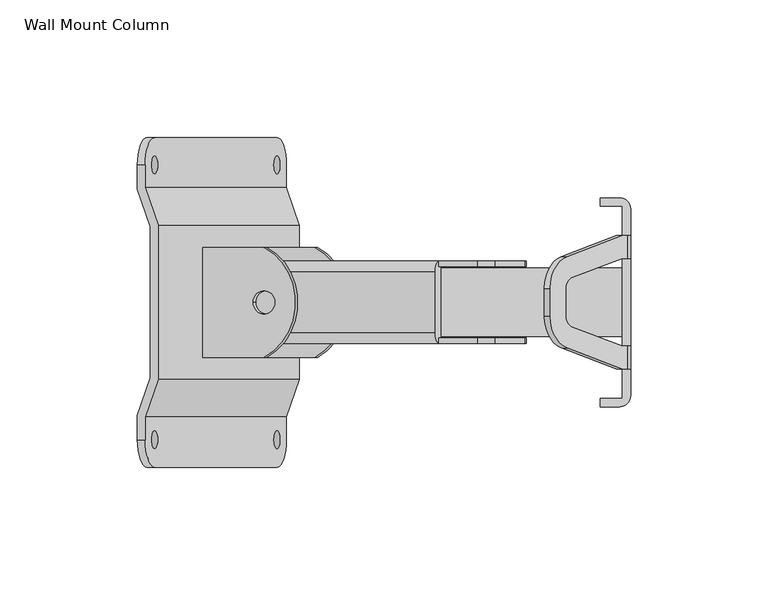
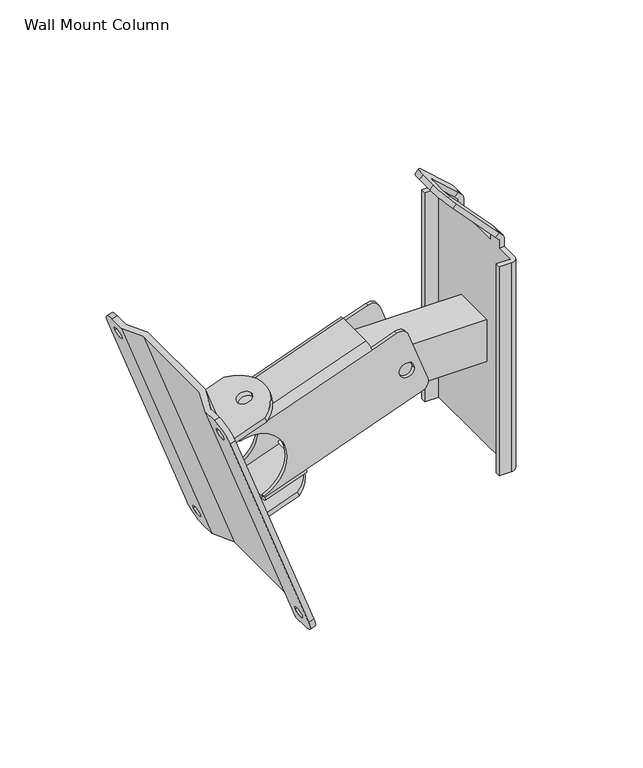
"""IFC4 building model written with IfcOpenShell, lengths in millimetres: proxy geometry, d&b xC-Series Wall Mount Column : Wall Mount Column."""

from ifc_helpers import new_model, si_unit, point, frame, frame_2d, origin, place, context, project, spatial, polyline, circle_curve, trimmed, segment, composite_curve, outline, extrude, source, transform, mapped, element, save
from ifc_brep_helpers import plane_surface, cylinder_surface, revolved_surface, advanced_brep


def wall_mount_column_5208b356(model_context):
    return source(origin(), model_context, "Body", "SolidModel", [
        advanced_brep(
        [(8.8044304, 13.0, -15.4185604), (11.7927928, 13.0, -9.0099966), (0.8481482, 13.0, 21.0601673), (-5.5604156, 13.0, 24.0485296), (-19.655805, 13.0, 18.9182275), (-18.9717647, 13.0, 17.0388422), (-88.2787958, 13.0, -8.1868541), (-80.8083887, 13.0, -46.9707814), (-79.7823283, 13.0, -49.7898593), (-56.2900128, 13.0, -41.2393557), (-56.9740531, 13.0, -39.3599705), (4.2194769, 13.0, 0.3691564), (-4.2194769, 13.0, -0.3691564), (-80.4663686, 15.0, -47.910474), (-80.8083887, 15.0, -46.9707814), (-94.4891945, 15.0, -9.3830766), (-94.8312146, 15.0, -8.443384), (-19.655805, 15.0, 18.9182275), (-5.5604156, 15.0, 24.0485296), (0.8481482, 15.0, 21.0601673), (11.7927928, 15.0, -9.0099966), (8.8044304, 15.0, -15.4185604), (-56.9740531, 15.0, -39.3599705), (4.2194769, 15.0, 0.3691564), (-4.2194769, 15.0, -0.3691564), (-94.4891945, 13.0, -9.3830766), (-80.8083887, -13.0, -46.9707814), (-88.2787958, -13.0, -8.1868541), (-18.9717647, -13.0, 17.0388422), (-19.655805, -13.0, 18.9182275), (-5.5604156, -13.0, 24.0485296), (0.8481482, -13.0, 21.0601673), (11.7927928, -13.0, -9.0099966), (8.8044304, -13.0, -15.4185604), (-56.9740531, -13.0, -39.3599705), (-56.2900128, -13.0, -41.2393557), (-79.7823283, -13.0, -49.7898593), (4.2194769, -13.0, 0.3691564), (-4.2194769, -13.0, -0.3691564), (8.8044304, -15.0, -15.4185604), (11.7927928, -15.0, -9.0099966), (0.8481482, -15.0, 21.0601673), (-5.5604156, -15.0, 24.0485296), (-19.655805, -15.0, 18.9182275), (-94.8312146, -15.0, -8.443384), (-94.4891945, -15.0, -9.3830766), (-80.8083887, -15.0, -46.9707814), (-80.4663686, -15.0, -47.910474), (-56.9740531, -15.0, -39.3599705), (4.2194769, -15.0, 0.3691564), (-4.2194769, -15.0, -0.3691564), (-94.4891945, -13.0, -9.3830766), (-79.098288, 11.0, -51.6692445), (-79.098288, -11.0, -51.6692445), (-96.1992952, 11.0, -4.6846135), (-94.1471743, 13.0, -10.3227692), (-94.1471743, -13.0, -10.3227692), (-96.1992952, -11.0, -4.6846135), (-21.0238855, 11.0, 22.676998), (-21.0238855, -11.0, 22.676998), (-55.6059725, -11.0, -43.1187409), (-55.6059725, 11.0, -43.1187409)],
        [
            (0, 1, circle_curve(frame((7.0943297, 13.0, -10.7200973), z_axis=(0.0, -1.0, 0.0), x_axis=(-0.9961946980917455, 0.0, -0.0871557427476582)), 5.0)),
            (1, 2),
            (2, 3, circle_curve(frame((-3.8503149, 13.0, 19.3500665), z_axis=(0.0, -1.0, 0.0), x_axis=(-0.9961946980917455, 0.0, -0.0871557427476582)), 5.0)),
            (3, 4),
            (4, 5),
            (5, 6),
            (6, 7, circle_curve(frame((-87.6487916, 13.0, -28.176929), z_axis=(0.0, 1.0, 0.0), x_axis=(-0.9961946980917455, 0.0, -0.0871557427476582)), 20.0)),
            (7, 8),
            (8, 9),
            (9, 10),
            (10, 0),
            (11, 12, circle_curve(frame((0.0, 13.0, 0.0), z_axis=(0.0, 1.0, 0.0), x_axis=(-0.9961946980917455, 0.0, -0.0871557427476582)), 4.2355947)),
            (12, 11, circle_curve(frame((0.0, 13.0, 0.0), z_axis=(0.0, 1.0, 0.0), x_axis=(-0.9961946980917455, 0.0, -0.0871557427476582)), 4.2355947)),
            (13, 14),
            (14, 15, circle_curve(frame((-87.6487916, 15.0, -28.176929), z_axis=(0.0, -1.0, 0.0), x_axis=(-0.9961946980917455, 0.0, -0.0871557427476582)), 20.0)),
            (15, 16),
            (16, 17),
            (17, 18),
            (18, 19, circle_curve(frame((-3.8503149, 15.0, 19.3500665), z_axis=(0.0, 1.0, 0.0), x_axis=(-0.9961946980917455, 0.0, -0.0871557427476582)), 5.0)),
            (19, 20),
            (20, 21, circle_curve(frame((7.0943297, 15.0, -10.7200973), z_axis=(0.0, 1.0, 0.0), x_axis=(-0.9961946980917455, 0.0, -0.0871557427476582)), 5.0)),
            (21, 22),
            (22, 13),
            (23, 24, circle_curve(frame((0.0, 15.0, 0.0), z_axis=(0.0, -1.0, 0.0), x_axis=(-0.9961946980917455, 0.0, -0.0871557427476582)), 4.2355947)),
            (24, 23, circle_curve(frame((0.0, 15.0, 0.0), z_axis=(0.0, -1.0, 0.0), x_axis=(-0.9961946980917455, 0.0, -0.0871557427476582)), 4.2355947)),
            (21, 0),
            (10, 22),
            (20, 1),
            (19, 2),
            (18, 3),
            (17, 4),
            (14, 7),
            (6, 25, circle_curve(frame((-87.6487916, 13.0, -28.176929), z_axis=(0.0, -1.0, 0.0), x_axis=(-0.9961946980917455, 0.0, -0.0871557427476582)), 20.0)),
            (25, 15),
            (26, 27, circle_curve(frame((-87.6487916, -13.0, -28.176929), z_axis=(0.0, -1.0, 0.0), x_axis=(-0.9961946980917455, 0.0, -0.08715574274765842)), 20.0)),
            (27, 28),
            (28, 29),
            (29, 30),
            (30, 31, circle_curve(frame((-3.8503149, -13.0, 19.3500665), z_axis=(0.0, 1.0, 0.0), x_axis=(-0.9961946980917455, 0.0, -0.08715574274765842)), 5.0)),
            (31, 32),
            (32, 33, circle_curve(frame((7.0943297, -13.0, -10.7200973), z_axis=(0.0, 1.0, 0.0), x_axis=(-0.9961946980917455, 0.0, -0.08715574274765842)), 5.0)),
            (33, 34),
            (34, 35),
            (35, 36),
            (36, 26),
            (37, 38, circle_curve(frame((0.0, -13.0, 0.0), z_axis=(0.0, -1.0, 0.0), x_axis=(-0.9961946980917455, 0.0, -0.08715574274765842)), 4.2355947)),
            (38, 37, circle_curve(frame((0.0, -13.0, 0.0), z_axis=(0.0, -1.0, 0.0), x_axis=(-0.9961946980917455, 0.0, -0.08715574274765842)), 4.2355947)),
            (39, 40, circle_curve(frame((7.0943297, -15.0, -10.7200973), z_axis=(0.0, -1.0, 0.0), x_axis=(-0.9961946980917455, 0.0, -0.08715574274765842)), 5.0)),
            (40, 41),
            (41, 42, circle_curve(frame((-3.8503149, -15.0, 19.3500665), z_axis=(0.0, -1.0, 0.0), x_axis=(-0.9961946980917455, 0.0, -0.08715574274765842)), 5.0)),
            (42, 43),
            (43, 44),
            (44, 45),
            (45, 46, circle_curve(frame((-87.6487916, -15.0, -28.176929), z_axis=(0.0, 1.0, 0.0), x_axis=(-0.9961946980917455, 0.0, -0.08715574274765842)), 20.0)),
            (46, 47),
            (47, 48),
            (48, 39),
            (49, 50, circle_curve(frame((0.0, -15.0, 0.0), z_axis=(0.0, 1.0, 0.0), x_axis=(-0.9961946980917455, 0.0, -0.08715574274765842)), 4.2355947)),
            (50, 49, circle_curve(frame((0.0, -15.0, 0.0), z_axis=(0.0, 1.0, 0.0), x_axis=(-0.9961946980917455, 0.0, -0.08715574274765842)), 4.2355947)),
            (33, 39),
            (48, 34),
            (32, 40),
            (31, 41),
            (30, 42),
            (29, 43),
            (45, 51),
            (51, 27, circle_curve(frame((-87.6487916, -13.0, -28.176929), z_axis=(0.0, 1.0, 0.0), x_axis=(-0.9961946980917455, 0.0, -0.08715574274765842)), 20.0)),
            (26, 46),
            (36, 8),
            (13, 52, circle_curve(frame((-80.4663686, 11.0, -47.910474), z_axis=(-0.9396926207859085, 0.0, -0.3420201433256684), x_axis=(0.0, -1.0, 0.0)), 4.0)),
            (52, 53),
            (53, 47, circle_curve(frame((-80.4663686, -11.0, -47.910474), z_axis=(-0.9396926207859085, 0.0, -0.3420201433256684), x_axis=(0.0, -1.0, 0.0)), 4.0)),
            (11, 23),
            (24, 12),
            (37, 49),
            (50, 38),
            (54, 16, circle_curve(frame((-94.8312146, 11.0, -8.443384), z_axis=(-0.9396926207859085, 0.0, -0.3420201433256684), x_axis=(0.0, -1.0, 0.0)), 4.0)),
            (25, 55),
            (55, 56),
            (56, 51),
            (44, 57, circle_curve(frame((-94.8312146, -11.0, -8.443384), z_axis=(-0.9396926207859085, 0.0, -0.3420201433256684), x_axis=(0.0, -1.0, 0.0)), 4.0)),
            (57, 54),
            (58, 59),
            (59, 43, circle_curve(frame((-19.655805, -11.0, 18.9182275), z_axis=(0.9396926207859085, 0.0, 0.3420201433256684), x_axis=(0.0, -1.0, 0.0)), 4.0)),
            (28, 5),
            (17, 58, circle_curve(frame((-19.655805, 11.0, 18.9182275), z_axis=(0.9396926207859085, 0.0, 0.3420201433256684), x_axis=(0.0, -1.0, 0.0)), 4.0)),
            (57, 59),
            (58, 54),
            (56, 27),
            (55, 6),
            (48, 60, circle_curve(frame((-56.9740531, -11.0, -39.3599705), z_axis=(0.9396926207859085, 0.0, 0.3420201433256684), x_axis=(0.0, -1.0, 0.0)), 4.0)),
            (60, 61),
            (61, 22, circle_curve(frame((-56.9740531, 11.0, -39.3599705), z_axis=(0.9396926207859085, 0.0, 0.3420201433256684), x_axis=(0.0, -1.0, 0.0)), 4.0)),
            (9, 35),
            (53, 60),
            (52, 61),
        ],
        [
            plane_surface(frame((8.8044304, 13.0, -15.4185604), z_axis=(0.0, -1.0000000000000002, 0.0), x_axis=(0.9396926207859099, 0.0, 0.3420201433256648))),
            plane_surface(frame((8.8044304, 15.0, -15.4185604), z_axis=(0.0, 1.0000000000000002, 0.0), x_axis=(-0.9396926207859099, 0.0, -0.3420201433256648))),
            plane_surface(frame((-80.4663686, 13.0, -47.910474), z_axis=(0.3420201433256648, 0.0, -0.9396926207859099), x_axis=(0.0, 1.0, 0.0))),
            cylinder_surface(frame((7.0943297, 15.0, -10.7200973), z_axis=(0.0, -1.0, 0.0), x_axis=(-0.9961946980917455, 0.0, -0.0871557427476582)), 5.0),
            plane_surface(frame((11.7927928, 13.0, -9.0099966), z_axis=(0.9396926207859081, 0.0, 0.34202014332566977), x_axis=(0.0, 1.0, 0.0))),
            cylinder_surface(frame((-3.8503149, 15.0, 19.3500665), z_axis=(0.0, -1.0, 0.0), x_axis=(-0.9961946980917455, 0.0, -0.0871557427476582)), 5.0),
            plane_surface(frame((-5.5604156, 13.0, 24.0485296), z_axis=(-0.34202014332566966, 0.0, 0.9396926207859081), x_axis=(0.0, 1.0, 0.0))),
            revolved_surface(polyline([(-107.5726855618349, 15.0, -29.920043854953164), (-107.5726855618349, 13.0, -29.920043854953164)]), (-87.6487916, 15.0, -28.176929), (0.0, 1.0, 0.0)),
            plane_surface(frame((-80.4663686, -13.0, -47.910474), z_axis=(0.0, 1.0, 0.0), x_axis=(-0.34202014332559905, 0.0, 0.9396926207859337))),
            plane_surface(frame((-80.4663686, -15.0, -47.910474), z_axis=(0.0, -1.0, 0.0), x_axis=(0.34202014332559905, 0.0, -0.9396926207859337))),
            plane_surface(frame((8.8044304, -13.0, -15.4185604), z_axis=(0.34202014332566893, 0.0, -0.9396926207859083), x_axis=(0.0, -1.0, 0.0))),
            cylinder_surface(frame((7.0943297, -15.0, -10.7200973), z_axis=(0.0, 1.0, 0.0), x_axis=(-0.9961946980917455, 0.0, -0.08715574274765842)), 5.0),
            plane_surface(frame((0.8481482, -13.0, 21.0601673), z_axis=(0.9396926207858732, 0.0, 0.3420201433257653), x_axis=(0.0, -1.0, 0.0))),
            cylinder_surface(frame((-3.8503149, -15.0, 19.3500665), z_axis=(0.0, 1.0, 0.0), x_axis=(-0.9961946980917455, 0.0, -0.08715574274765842)), 5.0),
            plane_surface(frame((-94.8312146, -13.0, -8.443384), z_axis=(-0.34202014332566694, 0.0, 0.9396926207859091), x_axis=(0.0, -1.0, 0.0))),
            revolved_surface(polyline([(-107.5726855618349, -15.0, -29.92004385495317), (-107.5726855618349, -13.0, -29.92004385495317)]), (-87.6487916, -15.0, -28.176929), (0.0, -1.0, 0.0)),
            plane_surface(frame((-80.4663686, -13.0, -47.910474), z_axis=(-0.9396926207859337, 0.0, -0.34202014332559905), x_axis=(0.0, -1.0, 0.0))),
            revolved_surface(polyline([(-4.219476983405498, 15.0, -0.3691564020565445), (-4.219476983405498, 13.0, -0.3691564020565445)]), (0.0, 0.0, 0.0), (0.0, 1.0, 0.0)),
            revolved_surface(polyline([(-4.219476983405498, -15.0, -0.36915640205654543), (-4.219476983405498, -13.0, -0.36915640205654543)]), (0.0, 0.0, 0.0), (0.0, -1.0, 0.0)),
            plane_surface(frame((-96.1992952, -11.0, -4.6846135), z_axis=(-0.9396926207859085, 0.0, -0.3420201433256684), x_axis=(0.0, 1.0, 0.0))),
            plane_surface(frame((-21.0238855, -11.0, 22.676998), z_axis=(0.9396926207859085, 0.0, 0.3420201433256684), x_axis=(0.0, -1.0, 0.0))),
            plane_surface(frame((-21.0238855, 11.0, 22.676998), z_axis=(-0.3420201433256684, 0.0, 0.9396926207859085), x_axis=(-0.9396926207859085, 0.0, -0.3420201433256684))),
            cylinder_surface(frame((-94.8312146, -11.0, -8.443384), z_axis=(0.9396926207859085, 0.0, 0.3420201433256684), x_axis=(0.0, -1.0, 0.0)), 4.0),
            plane_surface(frame((-19.655805, -13.0, 18.9182275), z_axis=(0.0, -1.0, 0.0), x_axis=(-0.9396926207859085, 0.0, -0.3420201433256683))),
            plane_surface(frame((-18.9717647, -13.0, 17.0388422), z_axis=(0.3420201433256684, 0.0, -0.9396926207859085), x_axis=(-0.9396926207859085, 0.0, -0.3420201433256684))),
            plane_surface(frame((-18.9717647, 13.0, 17.0388422), z_axis=(0.0, 1.0, 0.0), x_axis=(-0.9396926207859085, 0.0, -0.3420201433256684))),
            cylinder_surface(frame((-94.8312146, 11.0, -8.443384), z_axis=(0.9396926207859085, 0.0, 0.3420201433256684), x_axis=(0.0, -1.0, 0.0)), 4.0),
            plane_surface(frame((-56.9740531, -13.0, -39.3599705), z_axis=(0.9396926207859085, 0.0, 0.3420201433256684), x_axis=(-0.3420201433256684, 0.0, 0.9396926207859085))),
            cylinder_surface(frame((-80.4663686, -11.0, -47.910474), z_axis=(0.9396926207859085, 0.0, 0.3420201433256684), x_axis=(0.0, -1.0, 0.0)), 4.0),
            plane_surface(frame((-55.6059725, -11.0, -43.1187409), z_axis=(0.3420201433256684, 0.0, -0.9396926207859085), x_axis=(-0.9396926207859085, 0.0, -0.3420201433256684))),
            cylinder_surface(frame((-80.4663686, 11.0, -47.910474), z_axis=(0.9396926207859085, 0.0, 0.3420201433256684), x_axis=(0.0, -1.0, 0.0)), 4.0),
            plane_surface(frame((-56.2900128, 13.0, -41.2393557), z_axis=(-0.3420201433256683, 0.0, 0.9396926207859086), x_axis=(-0.9396926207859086, 0.0, -0.3420201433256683))),
        ],
        [
            (0, [[1, 2, 3, 4, 5, 6, 7, 8, 9, 10, 11], [12, 13]]),
            (1, [[14, 15, 16, 17, 18, 19, 20, 21, 22, 23], [24, 25]]),
            (2, [[26, -11, 27, -22]]),
            (3, [[-1, -26, -21, 28]]),
            (4, [[-2, -28, -20, 29]]),
            (5, [[-3, -29, -19, 30]]),
            (6, [[-30, -18, 31, -4]]),
            (7, [[-15, 32, -7, 33, 34]]),
            (8, [[35, 36, 37, 38, 39, 40, 41, 42, 43, 44, 45], [46, 47]]),
            (9, [[48, 49, 50, 51, 52, 53, 54, 55, 56, 57], [58, 59]]),
            (10, [[60, -57, 61, -42]]),
            (11, [[-41, 62, -48, -60]]),
            (12, [[-40, 63, -49, -62]]),
            (13, [[-39, 64, -50, -63]]),
            (14, [[-64, -38, 65, -51]]),
            (15, [[-54, 66, 67, -35, 68]]),
            (16, [[-45, 69, -8, -32, -14, 70, 71, 72, -55, -68]]),
            (17, [[-12, 73, -25, 74]]),
            (17, [[-13, -74, -24, -73]]),
            (18, [[-46, 75, -59, 76]]),
            (18, [[-47, -76, -58, -75]]),
            (19, [[77, -16, -34, 78, 79, 80, -66, -53, 81, 82]]),
            (20, [[83, 84, -65, -37, 85, -5, -31, 86]]),
            (21, [[-82, 87, -83, 88]]),
            (22, [[-81, -52, -84, -87]]),
            (23, [[-80, 89, -67]]),
            (24, [[-79, 90, -6, -85, -36, -89]]),
            (25, [[-78, -33, -90]]),
            (26, [[-77, -88, -86, -17]]),
            (27, [[-43, -61, 91, 92, 93, -27, -10, 94]]),
            (28, [[-91, -56, -72, 95]]),
            (29, [[-92, -95, -71, 96]]),
            (30, [[-93, -96, -70, -23]]),
            (31, [[-94, -9, -69, -44]]),
        ],
    ),
        extrude(outline(composite_curve([segment(polyline([(40.0, 0.0), (40.0, -24.0)]), True, "CONTINUOUS"), segment(trimmed(circle_curve(frame_2d((20.0, -13.5043359)), 22.5866989), [point((40.0, -24.0))], [point((0.0, -24.0))], False, "CARTESIAN"), True, "CONTINUOUS"), segment(polyline([(0.0, -24.0), (0.0, 0.0), (40.0, 0.0)]), True, "CONTINUOUS")], self_intersect=False), holes=[composite_curve([segment(trimmed(circle_curve(frame_2d((20.0, -24.0)), 4.2033528), [point((20.0, -28.2033528))], [point((20.0, -19.7966472))], True, "CARTESIAN"), True, "CONTINUOUS"), segment(trimmed(circle_curve(frame_2d((20.0, -24.0)), 4.2033528), [point((20.0, -19.7966472))], [point((20.0, -28.2033528))], True, "CARTESIAN"), True, "CONTINUOUS")], self_intersect=False)]), frame((-86.3584511, -20.0, -58.03635), z_axis=(-0.3420201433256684, 0.0, 0.9396926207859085), x_axis=(0.0, 1.0, 0.0)), (0.0, 0.0, 1.0), 3.0),
        advanced_brep(
        [(-124.5766138, -27.5, 38.1957758), (-129.2750769, -41.2373871, 36.4856751), (-129.2750769, -50.0, 36.4856751), (-126.4559991, -50.0, 37.5117355), (-126.4559991, -41.766368, 37.5117355), (-121.757536, -28.0289809, 39.2218363), (-121.757536, 28.0289809, 39.2218363), (-126.4559991, 41.766368, 37.5117355), (-126.4559991, 50.0, 37.5117355), (-129.2750769, 50.0, 36.4856751), (-129.2750769, 41.2373871, 36.4856751), (-124.5766138, 27.5, 38.1957758), (-73.2735923, -27.5, -102.7581173), (-73.2735923, 27.5, -102.7581173), (-77.9720554, 41.2373871, -104.468218), (-77.9720554, 50.0, -104.468218), (-75.1529776, 50.0, -103.4421576), (-75.1529776, 41.766368, -103.4421576), (-70.4545145, 28.0289809, -101.7320569), (-70.4545145, -28.0289809, -101.7320569), (-75.1529776, -41.766368, -103.4421576), (-75.1529776, -50.0, -103.4421576), (-77.9720554, -50.0, -104.468218), (-77.9720554, -41.2373871, -104.468218), (-81.3922569, -60.0, -95.0712918), (-125.8548755, -60.0, 27.0887489), (-125.8548755, -46.75, 27.0887489), (-125.8548755, -53.25, 27.0887489), (-81.3922569, -46.75, -95.0712918), (-81.3922569, -53.25, -95.0712918), (-78.573179, -60.0, -94.0452314), (-123.0357976, -60.0, 28.1148093), (-123.0357976, -53.25, 28.1148093), (-123.0357976, -46.75, 28.1148093), (-78.573179, -53.25, -94.0452314), (-78.573179, -46.75, -94.0452314), (-78.573179, 60.0, -94.0452314), (-123.0357976, 60.0, 28.1148093), (-123.0357976, 46.75, 28.1148093), (-123.0357976, 53.25, 28.1148093), (-78.573179, 46.75, -94.0452314), (-78.573179, 53.25, -94.0452314), (-81.3922569, 60.0, -95.0712918), (-125.8548755, 60.0, 27.0887489), (-125.8548755, 53.25, 27.0887489), (-125.8548755, 46.75, 27.0887489), (-81.3922569, 53.25, -95.0712918), (-81.3922569, 46.75, -95.0712918)],
        [
            (0, 1),
            (1, 2),
            (2, 3),
            (3, 4),
            (4, 5),
            (5, 6),
            (6, 7),
            (7, 8),
            (8, 9),
            (9, 10),
            (10, 11),
            (11, 0),
            (12, 13),
            (13, 14),
            (14, 15),
            (15, 16),
            (16, 17),
            (17, 18),
            (18, 19),
            (19, 20),
            (20, 21),
            (21, 22),
            (22, 23),
            (23, 12),
            (0, 12),
            (23, 1),
            (22, 24, circle_curve(frame((-81.3922569, -50.0, -95.0712918), z_axis=(-0.9396926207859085, 0.0, -0.34202014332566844), x_axis=(0.0, 1.0, 0.0)), 10.0)),
            (24, 25),
            (25, 2, circle_curve(frame((-125.8548755, -50.0, 27.0887489), z_axis=(-0.9396926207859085, 0.0, -0.34202014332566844), x_axis=(0.0, 1.0, 0.0)), 10.0)),
            (26, 27, circle_curve(frame((-125.8548755, -50.0, 27.0887489), z_axis=(0.9396926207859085, 0.0, 0.34202014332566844), x_axis=(0.0, 1.0, 0.0)), 3.25)),
            (27, 26, circle_curve(frame((-125.8548755, -50.0, 27.0887489), z_axis=(0.9396926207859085, 0.0, 0.34202014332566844), x_axis=(0.0, 1.0, 0.0)), 3.25)),
            (28, 29, circle_curve(frame((-81.3922569, -50.0, -95.0712918), z_axis=(0.9396926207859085, 0.0, 0.34202014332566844), x_axis=(0.0, 1.0, 0.0)), 3.25)),
            (29, 28, circle_curve(frame((-81.3922569, -50.0, -95.0712918), z_axis=(0.9396926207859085, 0.0, 0.34202014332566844), x_axis=(0.0, 1.0, 0.0)), 3.25)),
            (24, 30),
            (30, 31),
            (31, 25),
            (20, 4),
            (3, 31, circle_curve(frame((-123.0357976, -50.0, 28.1148093), z_axis=(0.9396926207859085, 0.0, 0.34202014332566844), x_axis=(0.0, 1.0, 0.0)), 10.0)),
            (30, 21, circle_curve(frame((-78.573179, -50.0, -94.0452314), z_axis=(0.9396926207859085, 0.0, 0.34202014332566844), x_axis=(0.0, 1.0, 0.0)), 10.0)),
            (32, 33, circle_curve(frame((-123.0357976, -50.0, 28.1148093), z_axis=(-0.9396926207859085, 0.0, -0.34202014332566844), x_axis=(0.0, 1.0, 0.0)), 3.25)),
            (33, 32, circle_curve(frame((-123.0357976, -50.0, 28.1148093), z_axis=(-0.9396926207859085, 0.0, -0.34202014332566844), x_axis=(0.0, 1.0, 0.0)), 3.25)),
            (34, 35, circle_curve(frame((-78.573179, -50.0, -94.0452314), z_axis=(-0.9396926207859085, 0.0, -0.34202014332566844), x_axis=(0.0, 1.0, 0.0)), 3.25)),
            (35, 34, circle_curve(frame((-78.573179, -50.0, -94.0452314), z_axis=(-0.9396926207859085, 0.0, -0.34202014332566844), x_axis=(0.0, 1.0, 0.0)), 3.25)),
            (19, 5),
            (18, 6),
            (17, 7),
            (16, 36, circle_curve(frame((-78.573179, 50.0, -94.0452314), z_axis=(0.9396926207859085, 0.0, 0.34202014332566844), x_axis=(0.0, 1.0, 0.0)), 10.0)),
            (36, 37),
            (37, 8, circle_curve(frame((-123.0357976, 50.0, 28.1148093), z_axis=(0.9396926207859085, 0.0, 0.34202014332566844), x_axis=(0.0, 1.0, 0.0)), 10.0)),
            (38, 39, circle_curve(frame((-123.0357976, 50.0, 28.1148093), z_axis=(-0.9396926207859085, 0.0, -0.34202014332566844), x_axis=(0.0, 1.0, 0.0)), 3.25)),
            (39, 38, circle_curve(frame((-123.0357976, 50.0, 28.1148093), z_axis=(-0.9396926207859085, 0.0, -0.34202014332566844), x_axis=(0.0, 1.0, 0.0)), 3.25)),
            (40, 41, circle_curve(frame((-78.573179, 50.0, -94.0452314), z_axis=(-0.9396926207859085, 0.0, -0.34202014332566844), x_axis=(0.0, 1.0, 0.0)), 3.25)),
            (41, 40, circle_curve(frame((-78.573179, 50.0, -94.0452314), z_axis=(-0.9396926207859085, 0.0, -0.34202014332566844), x_axis=(0.0, 1.0, 0.0)), 3.25)),
            (36, 42),
            (42, 43),
            (43, 37),
            (14, 10),
            (9, 43, circle_curve(frame((-125.8548755, 50.0, 27.0887489), z_axis=(-0.9396926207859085, 0.0, -0.34202014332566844), x_axis=(0.0, 1.0, 0.0)), 10.0)),
            (42, 15, circle_curve(frame((-81.3922569, 50.0, -95.0712918), z_axis=(-0.9396926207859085, 0.0, -0.34202014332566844), x_axis=(0.0, 1.0, 0.0)), 10.0)),
            (44, 45, circle_curve(frame((-125.8548755, 50.0, 27.0887489), z_axis=(0.9396926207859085, 0.0, 0.34202014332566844), x_axis=(0.0, 1.0, 0.0)), 3.25)),
            (45, 44, circle_curve(frame((-125.8548755, 50.0, 27.0887489), z_axis=(0.9396926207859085, 0.0, 0.34202014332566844), x_axis=(0.0, 1.0, 0.0)), 3.25)),
            (46, 47, circle_curve(frame((-81.3922569, 50.0, -95.0712918), z_axis=(0.9396926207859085, 0.0, 0.34202014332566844), x_axis=(0.0, 1.0, 0.0)), 3.25)),
            (47, 46, circle_curve(frame((-81.3922569, 50.0, -95.0712918), z_axis=(0.9396926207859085, 0.0, 0.34202014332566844), x_axis=(0.0, 1.0, 0.0)), 3.25)),
            (13, 11),
            (32, 27),
            (26, 33),
            (38, 45),
            (44, 39),
            (34, 29),
            (28, 35),
            (40, 47),
            (46, 41),
        ],
        [
            plane_surface(frame((-124.5766138, -27.5, 38.1957758), z_axis=(-0.3420201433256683, 0.0, 0.9396926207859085), x_axis=(-0.32139380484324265, -0.9396926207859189, -0.116977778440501))),
            plane_surface(frame((-73.2735923, -27.5, -102.7581173), z_axis=(0.3420201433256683, 0.0, -0.9396926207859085), x_axis=(0.32139380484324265, 0.9396926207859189, 0.116977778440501))),
            plane_surface(frame((-124.5766138, -27.5, 38.1957758), z_axis=(-0.8830222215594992, 0.34202014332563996, -0.321393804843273), x_axis=(0.34202014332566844, 0.0, -0.9396926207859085))),
            plane_surface(frame((-129.2750769, -41.2373871, 36.4856751), z_axis=(-0.9396926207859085, 0.0, -0.3420201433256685), x_axis=(0.3420201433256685, 0.0, -0.9396926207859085))),
            plane_surface(frame((-129.2750769, -60.0, 36.4856751), z_axis=(0.0, -1.0, 0.0), x_axis=(0.3420201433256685, 0.0, -0.9396926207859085))),
            plane_surface(frame((-126.4559991, -60.0, 37.5117355), z_axis=(0.9396926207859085, 0.0, 0.34202014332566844), x_axis=(0.34202014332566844, 0.0, -0.9396926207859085))),
            plane_surface(frame((-126.4559991, -41.766368, 37.5117355), z_axis=(0.8830222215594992, -0.3420201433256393, 0.321393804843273), x_axis=(0.3420201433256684, 0.0, -0.9396926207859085))),
            plane_surface(frame((-121.757536, -28.0289809, 39.2218363), z_axis=(0.9396926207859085, 0.0, 0.34202014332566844), x_axis=(0.34202014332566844, 0.0, -0.9396926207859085))),
            plane_surface(frame((-121.757536, 28.0289809, 39.2218363), z_axis=(0.8830222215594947, 0.34202014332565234, 0.3213938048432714), x_axis=(0.34202014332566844, 0.0, -0.9396926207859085))),
            plane_surface(frame((-126.4559991, 41.766368, 37.5117355), z_axis=(0.9396926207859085, 0.0, 0.34202014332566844), x_axis=(0.34202014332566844, 0.0, -0.9396926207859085))),
            plane_surface(frame((-126.4559991, 60.0, 37.5117355), z_axis=(0.0, 1.0, 0.0), x_axis=(0.34202014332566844, 0.0, -0.9396926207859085))),
            plane_surface(frame((-129.2750769, 60.0, 36.4856751), z_axis=(-0.9396926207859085, 0.0, -0.3420201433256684), x_axis=(0.3420201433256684, 0.0, -0.9396926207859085))),
            plane_surface(frame((-129.2750769, 41.2373871, 36.4856751), z_axis=(-0.8830222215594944, -0.3420201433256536, -0.32139380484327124), x_axis=(0.3420201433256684, 0.0, -0.9396926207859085))),
            plane_surface(frame((-124.5766138, 27.5, 38.1957758), z_axis=(-0.9396926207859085, 0.0, -0.34202014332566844), x_axis=(0.34202014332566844, 0.0, -0.9396926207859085))),
            cylinder_surface(frame((-108.9404083, -50.0, 33.2451115), z_axis=(0.9396926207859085, 0.0, 0.34202014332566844), x_axis=(0.0, 1.0, 0.0)), 10.0),
            cylinder_surface(frame((-123.0357976, 50.0, 28.1148093), z_axis=(0.9396926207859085, 0.0, 0.34202014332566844), x_axis=(0.0, 1.0, 0.0)), 10.0),
            cylinder_surface(frame((-78.573179, -50.0, -94.0452314), z_axis=(0.9396926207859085, 0.0, 0.34202014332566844), x_axis=(0.0, 1.0, 0.0)), 10.0),
            cylinder_surface(frame((-78.573179, 50.0, -94.0452314), z_axis=(0.9396926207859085, 0.0, 0.34202014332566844), x_axis=(0.0, 1.0, 0.0)), 10.0),
            revolved_surface(polyline([(-125.85487548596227, -46.75, 27.088748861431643), (-123.0357976, -46.75, 28.1148093)]), (-123.0357976, -50.0, 28.1148093), (-0.9396926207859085, 0.0, -0.34202014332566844)),
            revolved_surface(polyline([(-125.85487548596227, 53.25, 27.088748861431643), (-123.0357976, 53.25, 28.1148093)]), (-123.0357976, 50.0, 28.1148093), (-0.9396926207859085, 0.0, -0.34202014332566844)),
            revolved_surface(polyline([(-81.39225688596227, -46.75, -95.07129183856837), (-78.573179, -46.75, -94.0452314)]), (-78.573179, -50.0, -94.0452314), (-0.9396926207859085, 0.0, -0.34202014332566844)),
            revolved_surface(polyline([(-81.39225688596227, 53.25, -95.07129183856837), (-78.573179, 53.25, -94.0452314)]), (-78.573179, 50.0, -94.0452314), (-0.9396926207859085, 0.0, -0.34202014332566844)),
        ],
        [
            (0, [[1, 2, 3, 4, 5, 6, 7, 8, 9, 10, 11, 12]]),
            (1, [[13, 14, 15, 16, 17, 18, 19, 20, 21, 22, 23, 24]]),
            (2, [[-1, 25, -24, 26]]),
            (3, [[-26, -23, 27, 28, 29, -2], [30, 31], [32, 33]]),
            (4, [[-28, 34, 35, 36]]),
            (5, [[37, -4, 38, -35, 39, -21], [40, 41], [42, 43]]),
            (6, [[-5, -37, -20, 44]]),
            (7, [[-6, -44, -19, 45]]),
            (8, [[-7, -45, -18, 46]]),
            (9, [[-46, -17, 47, 48, 49, -8], [50, 51], [52, 53]]),
            (10, [[-48, 54, 55, 56]]),
            (11, [[57, -10, 58, -55, 59, -15], [60, 61], [62, 63]]),
            (12, [[-11, -57, -14, 64]]),
            (13, [[-12, -64, -13, -25]]),
            (14, [[-3, -29, -36, -38]]),
            (15, [[-9, -49, -56, -58]]),
            (16, [[-22, -39, -34, -27]]),
            (17, [[-16, -59, -54, -47]]),
            (18, [[65, -30, 66, -40]]),
            (18, [[-65, -41, -66, -31]]),
            (19, [[67, -60, 68, -50]]),
            (19, [[-67, -51, -68, -61]]),
            (20, [[69, -32, 70, -42]]),
            (20, [[-69, -43, -70, -33]]),
            (21, [[71, -62, 72, -52]]),
            (21, [[-71, -53, -72, -63]]),
        ],
    ),
        extrude(outline(composite_curve([segment(polyline([(40.0, 0.0), (40.0, -24.0)]), True, "CONTINUOUS"), segment(trimmed(circle_curve(frame_2d((20.0, -13.5043359)), 22.5866989), [point((40.0, -24.0))], [point((0.0, -24.0))], False, "CARTESIAN"), True, "CONTINUOUS"), segment(polyline([(0.0, -24.0), (0.0, 0.0), (40.0, 0.0)]), True, "CONTINUOUS")], self_intersect=False), holes=[composite_curve([segment(trimmed(circle_curve(frame_2d((20.0, -24.0)), 4.2033528), [point((20.0, -28.2033528))], [point((20.0, -19.7966472))], True, "CARTESIAN"), True, "CONTINUOUS"), segment(trimmed(circle_curve(frame_2d((20.0, -24.0)), 4.2033528), [point((20.0, -19.7966472))], [point((20.0, -28.2033528))], True, "CARTESIAN"), True, "CONTINUOUS")], self_intersect=False)]), frame((-104.8275389, -20.0, -7.2929485), z_axis=(-0.3420201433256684, 0.0, 0.9396926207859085), x_axis=(0.0, 1.0, 0.0)), (0.0, 0.0, 1.0), 3.0),
        advanced_brep(
        [(44.8686292, -24.1923439, 69.3813708), (25.0048577, -16.6652184, 89.2451423), (18.7157288, -5.0741084, 95.5342712), (18.7157288, 5.0741084, 95.5342712), (25.0048577, 16.6652184, 89.2451423), (44.8686292, 24.1923439, 69.3813708), (47.0, 24.1923439, 67.25), (47.0, 15.9101345, 67.25), (44.8686292, 15.9101345, 69.3813708), (26.4689593, 8.9378118, 87.7810407), (24.372583, 5.0741084, 89.877417), (24.372583, -5.0741084, 89.877417), (26.4689593, -8.9378118, 87.7810407), (44.8686292, -15.9101345, 69.3813708), (47.0, -15.9101345, 67.25), (47.0, -24.1923439, 67.25), (46.9899495, -15.9101345, 71.5026912), (28.5902797, -8.9378118, 89.902361), (26.4939033, -5.0741084, 91.9987373), (26.4939033, 5.0741084, 91.9987373), (28.5902797, 8.9378118, 89.902361), (46.9899495, 15.9101345, 71.5026912), (48.8284271, 15.9101345, 69.6642136), (48.8284271, 24.1923439, 69.6642136), (46.9899495, 24.1923439, 71.5026912), (27.126178, 16.6652184, 91.3664626), (20.8370491, 5.0741084, 97.6555916), (20.8370491, -5.0741084, 97.6555916), (27.126178, -16.6652184, 91.3664626), (46.9899495, -24.1923439, 71.5026912), (48.8284271, -24.1923439, 69.6642136), (48.8284271, -15.9101345, 69.6642136), (50.0, 15.9101345, 66.8357864), (47.0, 15.9101345, 62.25), (50.0, 15.9101345, 62.25), (50.0, 24.1923439, 66.8357864), (50.0, 24.1923439, 62.25), (47.0, 24.1923439, 62.25), (50.0, -15.9101345, 62.25), (50.0, -15.9101345, 66.8357864), (50.0, -24.1923439, 66.8357864), (50.0, -24.1923439, 62.25), (50.0, -34.0, 62.25), (50.0, -34.0, -62.75), (50.0, 34.0, -62.75), (50.0, 34.0, 62.25), (47.0, 35.0, 62.25), (47.0, 35.0, -62.75), (47.0, -35.0, -62.75), (47.0, -35.0, 62.25), (47.0, -24.1923439, 62.25), (47.0, -15.9101345, 62.25), (39.0, 38.0, 62.25), (39.0, 35.0, 62.25), (46.0, 38.0, 62.25), (39.0, -35.0, 62.25), (39.0, -38.0, 62.25), (46.0, -38.0, 62.25), (39.0, 38.0, -62.75), (46.0, 38.0, -62.75), (46.0, -38.0, -62.75), (39.0, -38.0, -62.75), (39.0, -35.0, -62.75), (39.0, 35.0, -62.75)],
        [
            (0, 1),
            (1, 2, circle_curve(frame((27.2010101, -5.0741084, 87.0489899), z_axis=(-0.7071067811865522, 0.0, -0.707106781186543), x_axis=(-0.707106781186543, 0.0, 0.7071067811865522)), 12.0)),
            (2, 3),
            (3, 4, circle_curve(frame((27.2010101, 5.0741084, 87.0489899), z_axis=(-0.7071067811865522, 0.0, -0.707106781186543), x_axis=(-0.707106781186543, 0.0, 0.7071067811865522)), 12.0)),
            (4, 5),
            (5, 6),
            (6, 7),
            (7, 8),
            (8, 9),
            (9, 10, circle_curve(frame((27.2010101, 5.0741084, 87.0489899), z_axis=(0.7071067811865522, 0.0, 0.707106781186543), x_axis=(-0.707106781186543, 0.0, 0.7071067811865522)), 4.0)),
            (10, 11),
            (11, 12, circle_curve(frame((27.2010101, -5.0741084, 87.0489899), z_axis=(0.7071067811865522, 0.0, 0.707106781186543), x_axis=(-0.707106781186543, 0.0, 0.7071067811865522)), 4.0)),
            (12, 13),
            (13, 14),
            (14, 15),
            (15, 0),
            (16, 17),
            (17, 18, circle_curve(frame((29.3223305, -5.0741084, 89.1703102), z_axis=(-0.7071067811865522, 0.0, -0.707106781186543), x_axis=(-0.707106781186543, 0.0, 0.7071067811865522)), 4.0)),
            (18, 19),
            (19, 20, circle_curve(frame((29.3223305, 5.0741084, 89.1703102), z_axis=(-0.7071067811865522, 0.0, -0.707106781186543), x_axis=(-0.707106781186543, 0.0, 0.7071067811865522)), 4.0)),
            (20, 21),
            (21, 22),
            (22, 23),
            (23, 24),
            (24, 25),
            (25, 26, circle_curve(frame((29.3223305, 5.0741084, 89.1703102), z_axis=(0.7071067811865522, 0.0, 0.707106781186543), x_axis=(-0.707106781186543, 0.0, 0.7071067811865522)), 12.0)),
            (26, 27),
            (27, 28, circle_curve(frame((29.3223305, -5.0741084, 89.1703102), z_axis=(0.7071067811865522, 0.0, 0.707106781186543), x_axis=(-0.707106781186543, 0.0, 0.7071067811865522)), 12.0)),
            (28, 29),
            (29, 30),
            (30, 31),
            (31, 16),
            (12, 17),
            (16, 13),
            (11, 18),
            (10, 19),
            (9, 20),
            (8, 21),
            (4, 25),
            (24, 5),
            (3, 26),
            (2, 27),
            (1, 28),
            (0, 29),
            (32, 22, circle_curve(frame((46.0, 15.9101345, 66.8357864), z_axis=(0.0, -1.0, 0.0), x_axis=(1.0, 0.0, 0.0)), 4.0)),
            (7, 33),
            (33, 34),
            (34, 32),
            (35, 36),
            (36, 37),
            (37, 6),
            (23, 35, circle_curve(frame((46.0, 24.1923439, 66.8357864), z_axis=(0.0, 1.0, 0.0), x_axis=(1.0, 0.0, 0.0)), 4.0)),
            (34, 38),
            (38, 39),
            (39, 40),
            (40, 41),
            (41, 42),
            (42, 43),
            (43, 44),
            (44, 45),
            (45, 36),
            (35, 32),
            (37, 46),
            (46, 47),
            (47, 48),
            (48, 49),
            (49, 50),
            (50, 15),
            (14, 51),
            (51, 33),
            (40, 30, circle_curve(frame((46.0, -24.1923439, 66.8357864), z_axis=(0.0, -1.0, 0.0), x_axis=(1.0, 0.0, 0.0)), 4.0)),
            (50, 41),
            (38, 51),
            (31, 39, circle_curve(frame((46.0, -15.9101345, 66.8357864), z_axis=(0.0, 1.0, 0.0), x_axis=(1.0, 0.0, 0.0)), 4.0)),
            (52, 53),
            (53, 46),
            (45, 54, circle_curve(frame((46.0, 34.0, 62.25), z_axis=(0.0, 0.0, 1.0), x_axis=(1.0, 0.0, 0.0)), 4.0)),
            (54, 52),
            (49, 55),
            (55, 56),
            (56, 57),
            (57, 42, circle_curve(frame((46.0, -34.0, 62.25), z_axis=(0.0, 0.0, 1.0), x_axis=(1.0, 0.0, 0.0)), 4.0)),
            (58, 59),
            (59, 44, circle_curve(frame((46.0, 34.0, -62.75), z_axis=(0.0, 0.0, -1.0), x_axis=(1.0, 0.0, 0.0)), 4.0)),
            (43, 60, circle_curve(frame((46.0, -34.0, -62.75), z_axis=(0.0, 0.0, -1.0), x_axis=(1.0, 0.0, 0.0)), 4.0)),
            (60, 61),
            (61, 62),
            (62, 48),
            (47, 63),
            (63, 58),
            (52, 58),
            (63, 53),
            (62, 55),
            (61, 56),
            (60, 57),
            (59, 54),
        ],
        [
            plane_surface(frame((44.8686292, -25.0, 69.3813708), z_axis=(-0.7071067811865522, 0.0, -0.707106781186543), x_axis=(0.0, -1.0, 0.0))),
            plane_surface(frame((46.9899495, -25.0, 71.5026912), z_axis=(0.7071067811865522, 0.0, 0.707106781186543), x_axis=(0.0, 1.0, 0.0))),
            plane_surface(frame((46.9899495, -15.9101345, 71.5026912), z_axis=(0.18301270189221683, 0.9659258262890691, -0.183012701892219), x_axis=(-0.7071067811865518, 0.0, -0.7071067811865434))),
            revolved_surface(polyline([(24.372582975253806, -5.0741084, 89.8774170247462), (26.493903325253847, -5.0741084, 91.9987373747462)]), (27.2010101, -5.0741084, 87.0489899), (-0.7071067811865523, 0.0, -0.7071067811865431)),
            plane_surface(frame((26.4939033, -5.0741084, 91.9987373), z_axis=(0.7071067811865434, 0.0, -0.7071067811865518), x_axis=(-0.7071067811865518, 0.0, -0.7071067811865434))),
            revolved_surface(polyline([(24.372582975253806, 5.0741084, 89.8774170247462), (26.493903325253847, 5.0741084, 91.9987373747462)]), (27.2010101, 5.0741084, 87.0489899), (-0.7071067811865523, 0.0, -0.7071067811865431)),
            plane_surface(frame((28.5902797, 8.9378118, 89.902361), z_axis=(0.18301270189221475, -0.9659258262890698, -0.1830127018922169), x_axis=(-0.7071067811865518, 0.0, -0.7071067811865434))),
            plane_surface(frame((46.9899495, 24.1923439, 71.5026912), z_axis=(-0.18301270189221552, 0.9659258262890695, 0.18301270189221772), x_axis=(-0.7071067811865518, 0.0, -0.7071067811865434))),
            cylinder_surface(frame((27.2010101, 5.0741084, 87.0489899), z_axis=(0.7071067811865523, 0.0, 0.7071067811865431), x_axis=(-0.707106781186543, 0.0, 0.7071067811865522)), 12.0),
            plane_surface(frame((20.8370491, 5.0741084, 97.6555916), z_axis=(-0.7071067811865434, 0.0, 0.7071067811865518), x_axis=(-0.7071067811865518, 0.0, -0.7071067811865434))),
            cylinder_surface(frame((27.2010101, -5.0741084, 87.0489899), z_axis=(0.7071067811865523, 0.0, 0.7071067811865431), x_axis=(-0.707106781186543, 0.0, 0.7071067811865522)), 12.0),
            plane_surface(frame((27.126178, -16.6652184, 91.3664626), z_axis=(-0.1830127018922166, -0.9659258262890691, 0.1830127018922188), x_axis=(-0.7071067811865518, 0.0, -0.7071067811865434))),
            plane_surface(frame((50.0, 15.9101345, 66.8357864), z_axis=(0.0, -1.0, 0.0), x_axis=(0.0, 0.0, 1.0))),
            plane_surface(frame((50.0, 24.1923439, 66.8357864), z_axis=(0.0, 1.0, 0.0), x_axis=(0.0, 0.0, -1.0))),
            plane_surface(frame((50.0, 15.9101345, 62.25), z_axis=(1.0, 0.0, 0.0), x_axis=(0.0, 1.0, 0.0))),
            plane_surface(frame((47.0, 15.9101345, 67.25), z_axis=(-1.0, 0.0, 0.0), x_axis=(0.0, 1.0, 0.0))),
            cylinder_surface(frame((46.0, 24.1923439, 66.8357864), z_axis=(0.0, -1.0, 0.0), x_axis=(1.0, 0.0, 0.0)), 4.0),
            plane_surface(frame((50.0, -24.1923439, 66.8357864), z_axis=(0.0, -1.0, 0.0), x_axis=(0.0, 0.0, 1.0))),
            plane_surface(frame((50.0, -15.9101345, 66.8357864), z_axis=(0.0, 1.0, 0.0), x_axis=(0.0, 0.0, -1.0))),
            cylinder_surface(frame((46.0, -15.9101345, 66.8357864), z_axis=(0.0, -1.0, 0.0), x_axis=(1.0, 0.0, 0.0)), 4.0),
            plane_surface(frame((39.0, 38.0, 62.25), z_axis=(0.0, 0.0, 1.0), x_axis=(0.0, -1.0, 0.0))),
            plane_surface(frame((39.0, 38.0, -62.75), z_axis=(0.0, 0.0, -1.0), x_axis=(0.0, 1.0, 0.0))),
            plane_surface(frame((39.0, 38.0, 62.25), z_axis=(-1.0, 0.0, 0.0), x_axis=(0.0, 0.0, -1.0))),
            plane_surface(frame((39.0, 35.0, 62.25), z_axis=(0.0, -1.0, 0.0), x_axis=(0.0, 0.0, -1.0))),
            plane_surface(frame((47.0, -35.0, 62.25), z_axis=(0.0, 1.0, 0.0), x_axis=(0.0, 0.0, -1.0))),
            plane_surface(frame((39.0, -35.0, 62.25), z_axis=(-1.0, 0.0, 0.0), x_axis=(0.0, 0.0, -1.0))),
            plane_surface(frame((39.0, -38.0, 62.25), z_axis=(0.0, -1.0, 0.0), x_axis=(0.0, 0.0, -1.0))),
            cylinder_surface(frame((46.0, -34.0, -62.75), z_axis=(0.0, 0.0, 1.0), x_axis=(1.0, 0.0, 0.0)), 4.0),
            cylinder_surface(frame((46.0, 34.0, -62.75), z_axis=(0.0, 0.0, 1.0), x_axis=(1.0, 0.0, 0.0)), 4.0),
            plane_surface(frame((46.0, 38.0, 62.25), z_axis=(0.0, 1.0, 0.0), x_axis=(0.0, 0.0, -1.0))),
        ],
        [
            (0, [[1, 2, 3, 4, 5, 6, 7, 8, 9, 10, 11, 12, 13, 14, 15, 16]]),
            (1, [[17, 18, 19, 20, 21, 22, 23, 24, 25, 26, 27, 28, 29, 30, 31, 32]]),
            (2, [[-13, 33, -17, 34]]),
            (3, [[-12, 35, -18, -33]]),
            (4, [[-11, 36, -19, -35]]),
            (5, [[-10, 37, -20, -36]]),
            (6, [[-9, 38, -21, -37]]),
            (7, [[-5, 39, -25, 40]]),
            (8, [[-4, 41, -26, -39]]),
            (9, [[-3, 42, -27, -41]]),
            (10, [[-2, 43, -28, -42]]),
            (11, [[-1, 44, -29, -43]]),
            (12, [[45, -22, -38, -8, 46, 47, 48]]),
            (13, [[49, 50, 51, -6, -40, -24, 52]]),
            (14, [[-48, 53, 54, 55, 56, 57, 58, 59, 60, 61, -49, 62]]),
            (15, [[-46, -7, -51, 63, 64, 65, 66, 67, 68, -15, 69, 70]]),
            (16, [[-45, -62, -52, -23]]),
            (17, [[71, -30, -44, -16, -68, 72, -56]]),
            (18, [[-54, 73, -69, -14, -34, -32, 74]]),
            (19, [[-71, -55, -74, -31]]),
            (20, [[-53, -47, -70, -73]]),
            (20, [[75, 76, -63, -50, -61, 77, 78]]),
            (20, [[79, 80, 81, 82, -57, -72, -67]]),
            (21, [[83, 84, -59, 85, 86, 87, 88, -65, 89, 90]]),
            (22, [[-75, 91, -90, 92]]),
            (23, [[-76, -92, -89, -64]]),
            (24, [[-79, -66, -88, 93]]),
            (25, [[-80, -93, -87, 94]]),
            (26, [[-81, -94, -86, 95]]),
            (27, [[-82, -95, -85, -58]]),
            (28, [[-77, -60, -84, 96]]),
            (29, [[-78, -96, -83, -91]]),
        ],
    ),
        extrude(outline(polyline([(47.0, 12.5), (47.0, -12.5), (-40.0, -12.5), (-40.0, 12.5), (47.0, 12.5)])), frame((0.0, 0.0, -12.5), z_axis=(0.0, 0.0, 1.0), x_axis=(1.0, 0.0, 0.0)), (0.0, 0.0, 1.0), 25.0),
    ])


if __name__ == "__main__":
    model = new_model("IFC4")
    model_context = context("Model", 3, world=origin())
    ifc_project = project(units=[si_unit("LENGTHUNIT", "METRE", prefix="MILLI")], contexts=[model_context])
    site = spatial("IfcSite", under=ifc_project)
    building = spatial("IfcBuilding", under=site)
    placement = place(None, origin())
    wall_mount_column_shape = wall_mount_column_5208b356(model_context)
    element("IfcBuildingElementProxy", 1, Name="d&b xC-Series Wall Mount Column : Wall Mount Column", ObjectType="d&b xC-Series Wall Mount Column : Wall Mount Column", at=placement, inside=building, context=model_context, shape_type="MappedRepresentation", body=[
        mapped(wall_mount_column_shape, transform((0.0, 0.0, 0.0), x_axis=(1.0, 0.0, 0.0), y_axis=(0.0, 1.0, 0.0), z_axis=(0.0, 0.0, 1.0))),
    ])
    save(model, "model.ifc")
